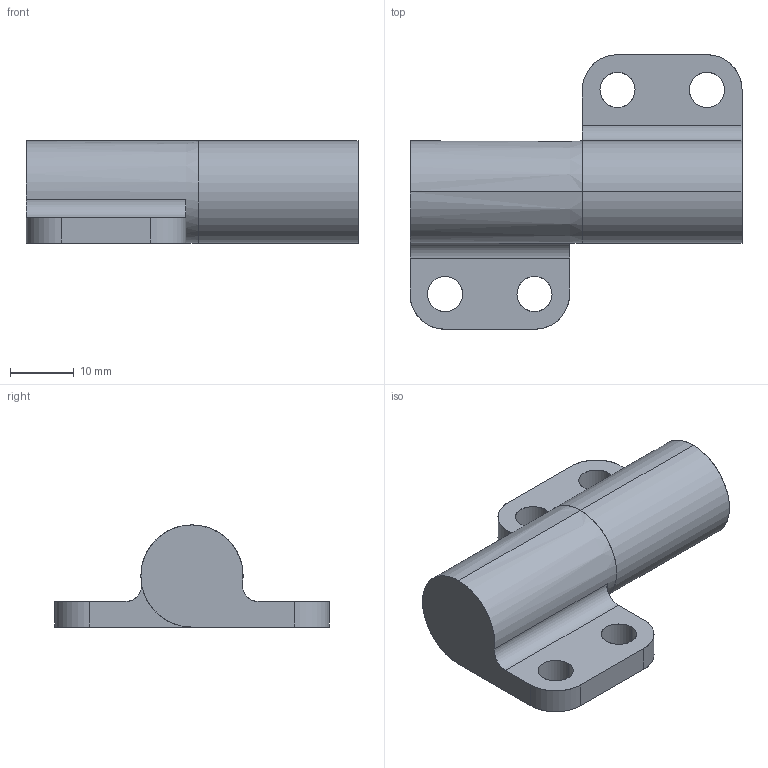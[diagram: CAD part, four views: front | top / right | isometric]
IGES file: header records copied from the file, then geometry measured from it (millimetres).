
Start section: SolidWorks IGES file using analytic representation for surfaces
Bounding box: 52 x 43 x 16 mm (x, y, z)
Surface area: 5682.1 mm2 (no closed solid volume)
Topology: 0 solids, 0 shells, 44 faces, 785 edges, 785 vertices
Faces by surface type: revolution 27, bspline 17
